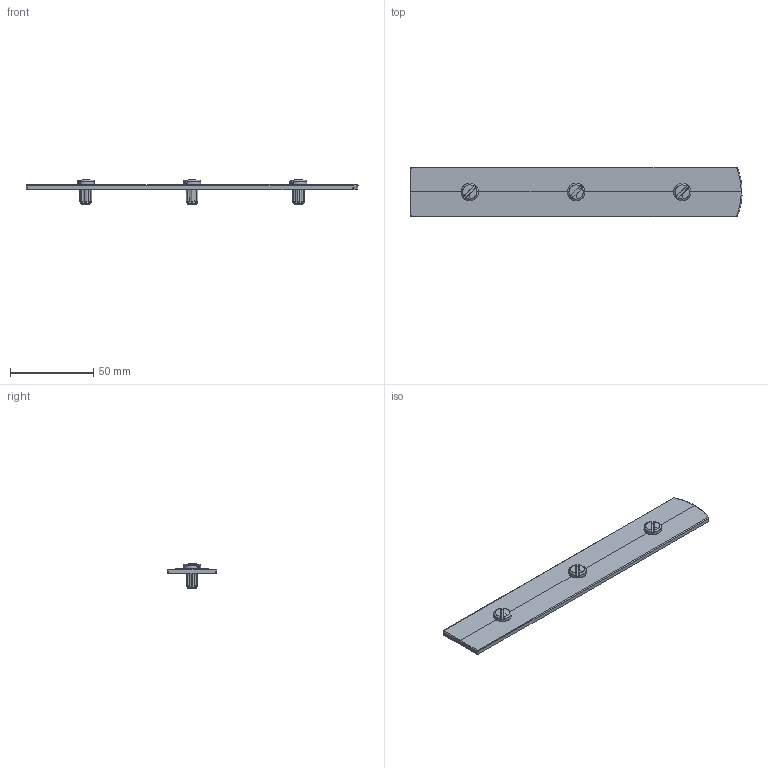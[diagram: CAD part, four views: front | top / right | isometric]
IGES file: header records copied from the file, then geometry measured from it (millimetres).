
Start section: C
Global section: file name: 8292-200.igs; native system: By Siemens PLM Incorporated; preprocessor: XPlus GENERIC/IGES 16.0.42; author: Author; organization: Title; date: 20210505.120836; units: millimetre
Bounding box: 199.96 x 30 x 14.63 mm (x, y, z)
Surface area: 15046.3 mm2 (no closed solid volume)
Topology: 0 solids, 0 shells, 250 faces, 1328 edges, 1328 vertices
Faces by surface type: bspline 250
